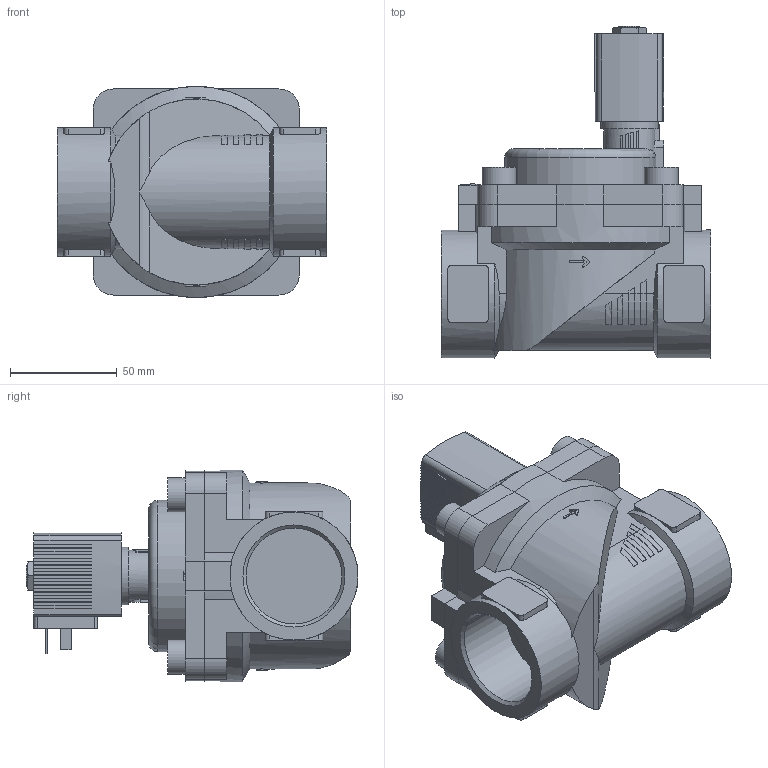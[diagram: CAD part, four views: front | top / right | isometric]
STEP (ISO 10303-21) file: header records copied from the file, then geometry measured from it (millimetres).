
FILE_DESCRIPTION(/* description */ ('STEP AP214'),/* implementation_level */ '2;1');
FILE_NAME(/* name */ '6281-253821-2_2-Way_Solenoid_Valve__Servo-assisted__General_Purpose',/* time_stamp */ '2024-07-02T12:25:29+02:00',/* author */ ('License CC BY-ND 4.0'),/* organization */ ('CADENAS'),/* preprocessor_version */ 'ST-DEVELOPER v19.3',/* originating_system */ 'PARTsolutions',/* authorisation */ ' ');
FILE_SCHEMA (('AUTOMOTIVE_DESIGN {1 0 10303 214 3 1 1}'));
Length unit declared in the file: millimetre
Products named in the file (4): 6281-253821-2/2-Way Solenoid Valve, Servo-assisted, General Purpose; 5281ev400MS2/2-Wege-Magnetventil mit Servomembran-Deckel 99 ; 6213-40G1_1/2MS-Gehaeuse-; AC10ex-5OO-Plan-Coil
Assembly tree (3 placements, depth 2):
  6281-253821-2/2-Way Solenoid Valve, Servo-assisted, General Purpose
    5281ev400MS2/2-Wege-Magnetventil mit Servomembran-Deckel 99 
    6213-40G1_1/2MS-Gehaeuse-
    AC10ex-5OO-Plan-Coil
Bounding box: 126 x 155.5 x 99 mm (x, y, z)
Volume: 671364.5 mm3; surface area: 93932.5 mm2
Topology: 3 solids, 3 shells, 544 faces, 1521 edges, 1009 vertices
Faces by surface type: plane 434, cylinder 94, cone 15, torus 1
Full cylindrical faces by diameter (mm): 2.013 x1, 9.74 x1, 16 x4, 27 x1, 44.845 x2, 60 x2
Entity records: 20062 total; most frequent: CARTESIAN_POINT 3321, ORIENTED_EDGE 2996, DIRECTION 2840, EDGE_CURVE 1498, LINE 1112, VECTOR 1112, VERTEX_POINT 1001, AXIS2_PLACEMENT_3D 864
